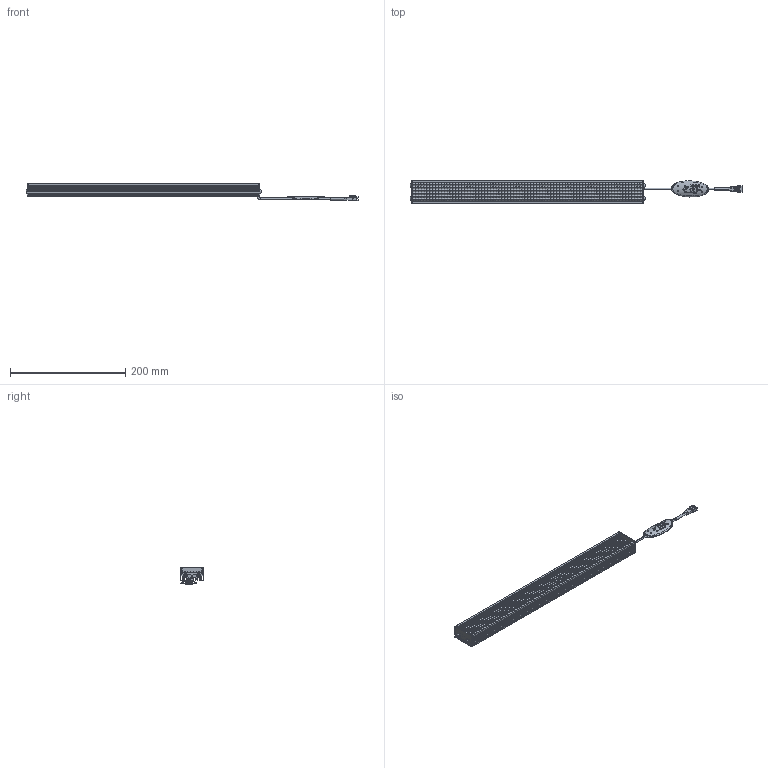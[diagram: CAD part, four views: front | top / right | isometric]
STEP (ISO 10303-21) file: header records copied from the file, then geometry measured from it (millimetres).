
FILE_DESCRIPTION(('STEP AP214'),'1');
FILE_NAME('VBA-40030_DRAWING_3D.step','2023-09-14T01:14:40',(' '),(' '),'Spatial InterOp 3D',' ',' ');
FILE_SCHEMA(('AUTOMOTIVE_DESIGN { 1 0 10303 214 1 1 1 1 }'));
Length unit declared in the file: millimetre
Products named in the file (7): BASE; SIDE PLATE; LED LENS; MXB8146; 3P; CABEL TAG (VS).stp
Assembly tree (17 placements, depth 2):
  (unnamed)
    BASE
    SIDE PLATE  x2
    LED LENS  x8
    MXB8146  x4
    3P
    CABEL TAG (VS).stp
Bounding box: 576 x 41 x 30.5 mm (x, y, z)
Volume: 180976.5 mm3; surface area: 164486.8 mm2
Topology: 18 solids, 18 shells, 3120 faces, 9485 edges, 6457 vertices
Faces by surface type: plane 1132, cylinder 1008, sphere 960, torus 14, bspline 6
Entity records: 45917 total; most frequent: CARTESIAN_POINT 9985, ORIENTED_EDGE 6106, DIRECTION 5827, EDGE_CURVE 3053, VERTEX_POINT 2155, AXIS2_PLACEMENT_3D 2151, LINE 1525, VECTOR 1525
